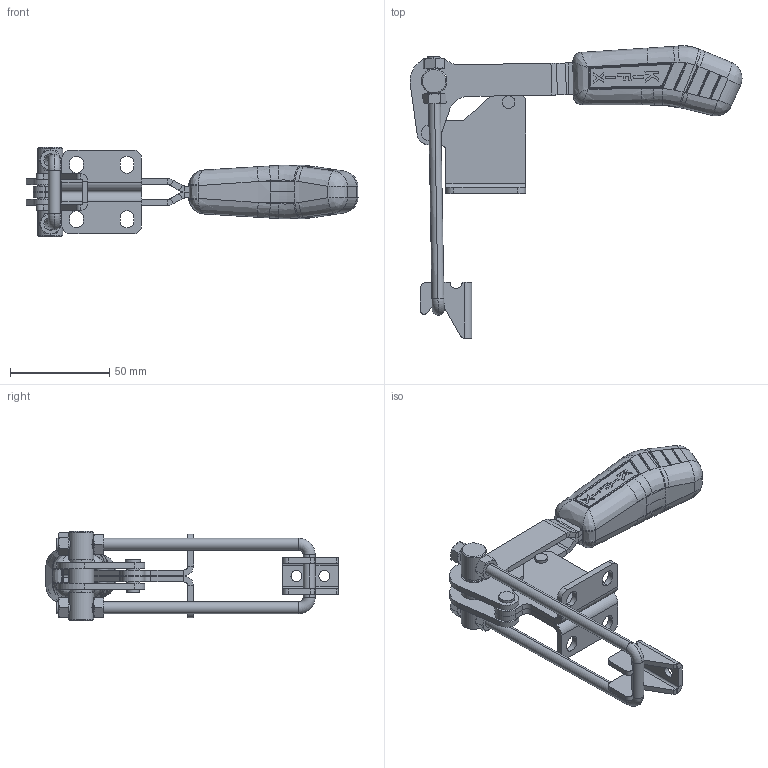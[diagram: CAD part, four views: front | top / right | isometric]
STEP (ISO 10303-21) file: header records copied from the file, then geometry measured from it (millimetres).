
FILE_DESCRIPTION (( 'STEP AP203' ), '1' );
FILE_NAME ('KF-163 D.STEP', '2014-08-22T12:06:20', ( 'Ricardo' ), ( '' ), 'SwSTEP 2.0', 'SolidWorks 2013', '' );
FILE_SCHEMA (( 'CONFIG_CONTROL_DESIGN' ));
Length unit declared in the file: millimetre
Products named in the file (12): 06.50031; 02.12052_Esquerda; 07.60001; 01.10066_Montagem; KF-163 D; 01.10066_Esquerda; 16.20036; 03.20027; 11.50001; 15.10028; 06.50030; 02.12052_Direita
Assembly tree (14 placements, depth 2):
  KF-163 D
    02.12052_Direita
    02.12052_Esquerda
    01.10066_Montagem
    01.10066_Esquerda
    16.20036
    03.20027
    11.50001  x4
    15.10028
    06.50030
    06.50031
    07.60001
Bounding box: 166.87 x 147.01 x 45 mm (x, y, z)
Volume: 90463.5 mm3; surface area: 47474.7 mm2
Topology: 14 solids, 14 shells, 679 faces, 1697 edges, 1060 vertices
Faces by surface type: plane 273, cylinder 197, bspline 126, cone 76, torus 7
Entity records: 23232 total; most frequent: CARTESIAN_POINT 8687, ORIENTED_EDGE 3042, DIRECTION 2315, EDGE_CURVE 1521, VERTEX_POINT 964, AXIS2_PLACEMENT_3D 830, EDGE_LOOP 661, LINE 655
